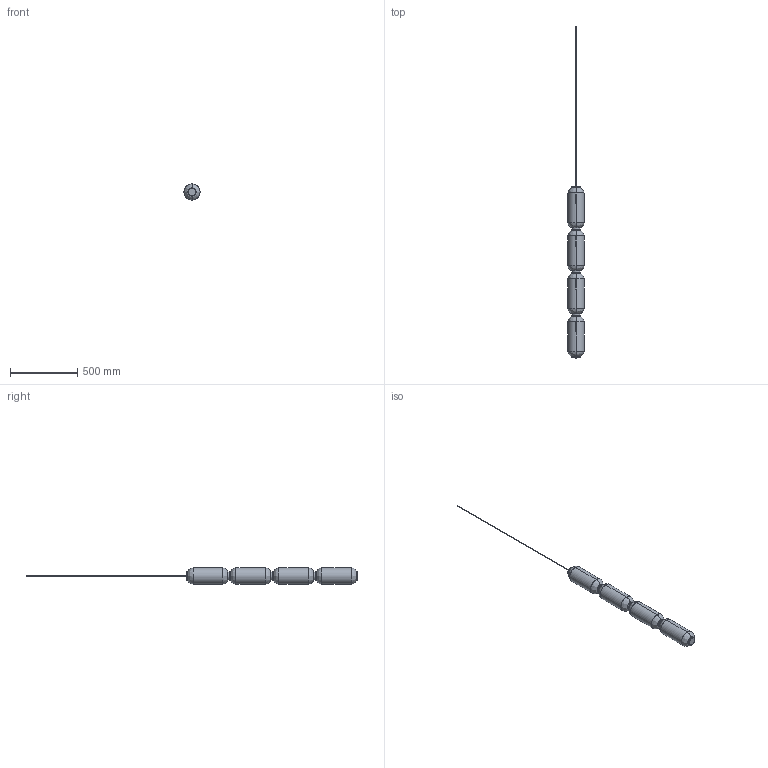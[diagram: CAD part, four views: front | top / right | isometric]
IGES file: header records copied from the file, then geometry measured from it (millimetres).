
Start section: SolidWorks IGES file using analytic representation for surfaces
Global section: file name: C:\Users\adrian\Desktop\AROA\PRODUCTO\ELMA\ELMA_C1312-4\ELMA_C1312-4.IGS; native system: SolidWorks 2023; preprocessor: SolidWorks 2023; author: adrian; date: 260922.160510; units: millimetre
Bounding box: 120 x 2475 x 120 mm (x, y, z)
Surface area: 1025712.6 mm2 (no closed solid volume)
Topology: 0 solids, 0 shells, 123 faces, 2168 edges, 2168 vertices
Faces by surface type: bspline 77, revolution 46
